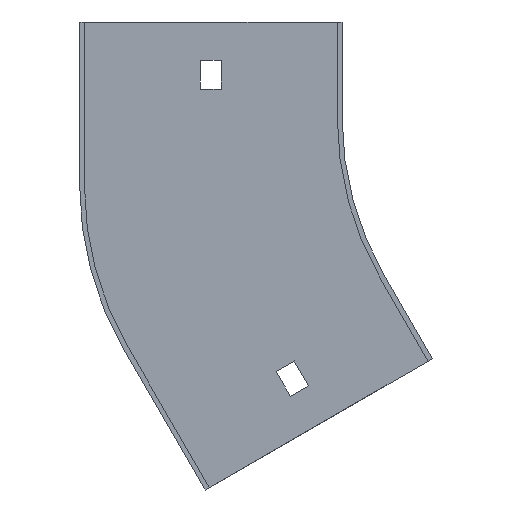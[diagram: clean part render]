
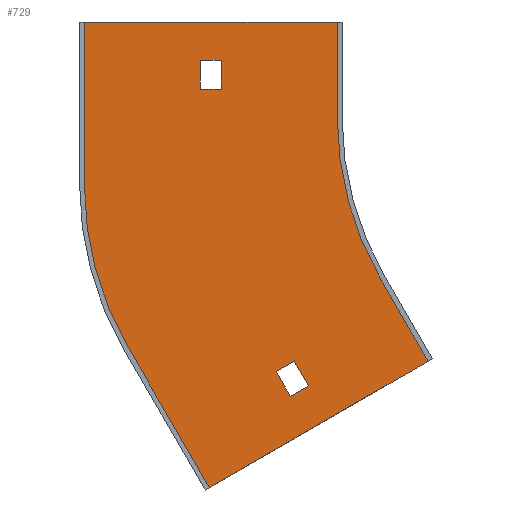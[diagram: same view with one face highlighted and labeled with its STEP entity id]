
A CAD part, front view. The second image highlights one B-rep face of the part: STEP entity #729.
In plain terms, the highlighted planar face has unit normal (0, -1, 0).
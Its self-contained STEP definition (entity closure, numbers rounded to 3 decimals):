
#1 = CARTESIAN_POINT ( 'NONE',  ( -179., -1.5, 30. ) ) ;
#6 = ORIENTED_EDGE ( 'NONE', *, *, #630, .F. ) ;
#11 = VERTEX_POINT ( 'NONE', #513 ) ;
#18 = DIRECTION ( 'NONE',  ( 0., 0., -1. ) ) ;
#22 = EDGE_CURVE ( 'NONE', #364, #626, #390, .T. ) ;
#25 = ORIENTED_EDGE ( 'NONE', *, *, #765, .F. ) ;
#29 = LINE ( 'NONE', #81, #859 ) ;
#40 = VECTOR ( 'NONE', #407, 1000. ) ;
#41 = DIRECTION ( 'NONE',  ( 0., 0., -1. ) ) ;
#49 = ORIENTED_EDGE ( 'NONE', *, *, #177, .T. ) ;
#73 = EDGE_CURVE ( 'NONE', #797, #11, #346, .T. ) ;
#78 = EDGE_CURVE ( 'NONE', #493, #221, #266, .T. ) ;
#81 = CARTESIAN_POINT ( 'NONE',  ( -100., -1.5, 30. ) ) ;
#82 = DIRECTION ( 'NONE',  ( 0., 0., 1. ) ) ;
#88 = ORIENTED_EDGE ( 'NONE', *, *, #22, .F. ) ;
#97 = CARTESIAN_POINT ( 'NONE',  ( 9., -1.5, -15.588 ) ) ;
#102 = ORIENTED_EDGE ( 'NONE', *, *, #400, .F. ) ;
#105 = DIRECTION ( 'NONE',  ( -0.866, 0., -0.5 ) ) ;
#112 = EDGE_CURVE ( 'NONE', #431, #797, #625, .T. ) ;
#125 = VECTOR ( 'NONE', #202, 1000. ) ;
#147 = CARTESIAN_POINT ( 'NONE',  ( -100., -1.5, 30. ) ) ;
#156 = ORIENTED_EDGE ( 'NONE', *, *, #73, .F. ) ;
#158 = DIRECTION ( 'NONE',  ( 0.866, 0., 0.5 ) ) ;
#159 = ORIENTED_EDGE ( 'NONE', *, *, #523, .T. ) ;
#161 = VECTOR ( 'NONE', #434, 1000. ) ;
#170 = CARTESIAN_POINT ( 'NONE',  ( -165.603, -1.5, -71.168 ) ) ;
#172 = ORIENTED_EDGE ( 'NONE', *, *, #494, .T. ) ;
#174 = VECTOR ( 'NONE', #337, 1000. ) ;
#177 = EDGE_CURVE ( 'NONE', #253, #503, #609, .T. ) ;
#183 = DIRECTION ( 'NONE',  ( 0., 0., -1. ) ) ;
#185 = CARTESIAN_POINT ( 'NONE',  ( -140.019, -1.5, -115.481 ) ) ;
#199 = ORIENTED_EDGE ( 'NONE', *, *, #112, .F. ) ;
#201 = VECTOR ( 'NONE', #777, 1000. ) ;
#202 = DIRECTION ( 'NONE',  ( 1., 0., 0. ) ) ;
#212 = CIRCLE ( 'NONE', #328, 100. ) ;
#221 = VERTEX_POINT ( 'NONE', #170 ) ;
#223 = DIRECTION ( 'NONE',  ( 0., -1., 0. ) ) ;
#224 = LINE ( 'NONE', #826, #785 ) ;
#225 = EDGE_LOOP ( 'NONE', ( #304, #450, #307, #88 ) ) ;
#228 = VERTEX_POINT ( 'NONE', #627 ) ;
#239 = CARTESIAN_POINT ( 'NONE',  ( -119.125, -1.5, -79.169 ) ) ;
#242 = FACE_OUTER_BOUND ( 'NONE', #412, .T. ) ;
#253 = VERTEX_POINT ( 'NONE', #598 ) ;
#256 = AXIS2_PLACEMENT_3D ( 'NONE', #852, #787, #183 ) ;
#262 = CARTESIAN_POINT ( 'NONE',  ( -136.25, -1.5, 9. ) ) ;
#263 = LINE ( 'NONE', #726, #125 ) ;
#266 = LINE ( 'NONE', #599, #299 ) ;
#272 = EDGE_CURVE ( 'NONE', #277, #847, #354, .T. ) ;
#277 = VERTEX_POINT ( 'NONE', #1 ) ;
#279 = VERTEX_POINT ( 'NONE', #610 ) ;
#285 = VERTEX_POINT ( 'NONE', #432 ) ;
#295 = DIRECTION ( 'NONE',  ( 0., 0., -1. ) ) ;
#299 = VECTOR ( 'NONE', #665, 1000. ) ;
#302 = AXIS2_PLACEMENT_3D ( 'NONE', #814, #223, #18 ) ;
#303 = CARTESIAN_POINT ( 'NONE',  ( -113.496, -1.5, -75.919 ) ) ;
#304 = ORIENTED_EDGE ( 'NONE', *, *, #579, .F. ) ;
#307 = ORIENTED_EDGE ( 'NONE', *, *, #401, .F. ) ;
#317 = DIRECTION ( 'NONE',  ( 0.5, 0., -0.866 ) ) ;
#323 = DIRECTION ( 'NONE',  ( 0., 1., 0. ) ) ;
#328 = AXIS2_PLACEMENT_3D ( 'NONE', #845, #323, #41 ) ;
#337 = DIRECTION ( 'NONE',  ( 1., 0., 0. ) ) ;
#342 = ORIENTED_EDGE ( 'NONE', *, *, #584, .F. ) ;
#346 = LINE ( 'NONE', #420, #673 ) ;
#351 = CARTESIAN_POINT ( 'NONE',  ( -142.75, -1.5, 18. ) ) ;
#354 = LINE ( 'NONE', #546, #174 ) ;
#360 = ORIENTED_EDGE ( 'NONE', *, *, #373, .T. ) ;
#364 = VERTEX_POINT ( 'NONE', #303 ) ;
#373 = EDGE_CURVE ( 'NONE', #228, #820, #631, .T. ) ;
#388 = CARTESIAN_POINT ( 'NONE',  ( 0., -1.5, 9. ) ) ;
#390 = LINE ( 'NONE', #718, #763 ) ;
#400 = EDGE_CURVE ( 'NONE', #421, #277, #646, .T. ) ;
#401 = EDGE_CURVE ( 'NONE', #626, #279, #780, .T. ) ;
#407 = DIRECTION ( 'NONE',  ( 0., 0., 1. ) ) ;
#409 = FACE_BOUND ( 'NONE', #555, .T. ) ;
#412 = EDGE_LOOP ( 'NONE', ( #789, #102, #25, #704, #342, #156, #199, #6 ) ) ;
#420 = CARTESIAN_POINT ( 'NONE',  ( -86.603, -1.5, -50. ) ) ;
#421 = VERTEX_POINT ( 'NONE', #589 ) ;
#427 = VECTOR ( 'NONE', #317, 1000. ) ;
#431 = VERTEX_POINT ( 'NONE', #796 ) ;
#432 = CARTESIAN_POINT ( 'NONE',  ( -108.996, -1.5, -83.713 ) ) ;
#434 = DIRECTION ( 'NONE',  ( 0., 0., -1. ) ) ;
#437 = DIRECTION ( 'NONE',  ( -0.866, 0., -0.5 ) ) ;
#447 = LINE ( 'NONE', #684, #201 ) ;
#449 = LINE ( 'NONE', #97, #484 ) ;
#450 = ORIENTED_EDGE ( 'NONE', *, *, #563, .F. ) ;
#467 = LINE ( 'NONE', #388, #622 ) ;
#484 = VECTOR ( 'NONE', #158, 1000. ) ;
#493 = VERTEX_POINT ( 'NONE', #185 ) ;
#494 = EDGE_CURVE ( 'NONE', #503, #228, #467, .T. ) ;
#503 = VERTEX_POINT ( 'NONE', #262 ) ;
#511 = CARTESIAN_POINT ( 'NONE',  ( -179., -1.5, -21.168 ) ) ;
#513 = CARTESIAN_POINT ( 'NONE',  ( -71.603, -1.5, -75.981 ) ) ;
#523 = EDGE_CURVE ( 'NONE', #820, #253, #263, .T. ) ;
#524 = CARTESIAN_POINT ( 'NONE',  ( -86.603, -1.5, -50. ) ) ;
#529 = PLANE ( 'NONE',  #256 ) ;
#546 = CARTESIAN_POINT ( 'NONE',  ( -180.5, -1.5, 30. ) ) ;
#555 = EDGE_LOOP ( 'NONE', ( #159, #49, #172, #360 ) ) ;
#557 = VECTOR ( 'NONE', #82, 1000. ) ;
#563 = EDGE_CURVE ( 'NONE', #279, #285, #449, .T. ) ;
#579 = EDGE_CURVE ( 'NONE', #285, #364, #447, .T. ) ;
#584 = EDGE_CURVE ( 'NONE', #11, #493, #224, .T. ) ;
#589 = CARTESIAN_POINT ( 'NONE',  ( -179., -1.5, -21.168 ) ) ;
#598 = CARTESIAN_POINT ( 'NONE',  ( -136.25, -1.5, 18. ) ) ;
#599 = CARTESIAN_POINT ( 'NONE',  ( -140.019, -1.5, -115.481 ) ) ;
#609 = LINE ( 'NONE', #689, #161 ) ;
#610 = CARTESIAN_POINT ( 'NONE',  ( -114.625, -1.5, -86.963 ) ) ;
#622 = VECTOR ( 'NONE', #708, 1000. ) ;
#625 = CIRCLE ( 'NONE', #302, 100. ) ;
#626 = VERTEX_POINT ( 'NONE', #239 ) ;
#627 = CARTESIAN_POINT ( 'NONE',  ( -142.75, -1.5, 9. ) ) ;
#630 = EDGE_CURVE ( 'NONE', #847, #431, #29, .T. ) ;
#631 = LINE ( 'NONE', #760, #557 ) ;
#646 = LINE ( 'NONE', #511, #40 ) ;
#665 = DIRECTION ( 'NONE',  ( -0.5, 0., 0.866 ) ) ;
#673 = VECTOR ( 'NONE', #730, 1000. ) ;
#684 = CARTESIAN_POINT ( 'NONE',  ( -117.996, -1.5, -68.125 ) ) ;
#689 = CARTESIAN_POINT ( 'NONE',  ( -136.25, -1.5, 0. ) ) ;
#704 = ORIENTED_EDGE ( 'NONE', *, *, #78, .F. ) ;
#708 = DIRECTION ( 'NONE',  ( -1., 0., 0. ) ) ;
#718 = CARTESIAN_POINT ( 'NONE',  ( 4.5, -1.5, -7.794 ) ) ;
#726 = CARTESIAN_POINT ( 'NONE',  ( 0., -1.5, 18. ) ) ;
#729 = ADVANCED_FACE ( 'NONE', ( #790, #242, #409 ), #529, .T. ) ;
#730 = DIRECTION ( 'NONE',  ( 0.5, 0., -0.866 ) ) ;
#731 = CARTESIAN_POINT ( 'NONE',  ( -123.625, -1.5, -71.375 ) ) ;
#760 = CARTESIAN_POINT ( 'NONE',  ( -142.75, -1.5, 0. ) ) ;
#763 = VECTOR ( 'NONE', #105, 1000. ) ;
#765 = EDGE_CURVE ( 'NONE', #221, #421, #212, .T. ) ;
#777 = DIRECTION ( 'NONE',  ( -0.5, 0., 0.866 ) ) ;
#780 = LINE ( 'NONE', #731, #427 ) ;
#785 = VECTOR ( 'NONE', #437, 1000. ) ;
#787 = DIRECTION ( 'NONE',  ( 0., -1., 0. ) ) ;
#789 = ORIENTED_EDGE ( 'NONE', *, *, #272, .F. ) ;
#790 = FACE_BOUND ( 'NONE', #225, .T. ) ;
#796 = CARTESIAN_POINT ( 'NONE',  ( -100., -1.5, 0. ) ) ;
#797 = VERTEX_POINT ( 'NONE', #524 ) ;
#814 = CARTESIAN_POINT ( 'NONE',  ( 0., -1.5, 0. ) ) ;
#820 = VERTEX_POINT ( 'NONE', #351 ) ;
#826 = CARTESIAN_POINT ( 'NONE',  ( -70.304, -1.5, -75.231 ) ) ;
#845 = CARTESIAN_POINT ( 'NONE',  ( -79., -1.5, -21.168 ) ) ;
#847 = VERTEX_POINT ( 'NONE', #147 ) ;
#852 = CARTESIAN_POINT ( 'NONE',  ( 0., -1.5, 0. ) ) ;
#859 = VECTOR ( 'NONE', #295, 1000. ) ;
